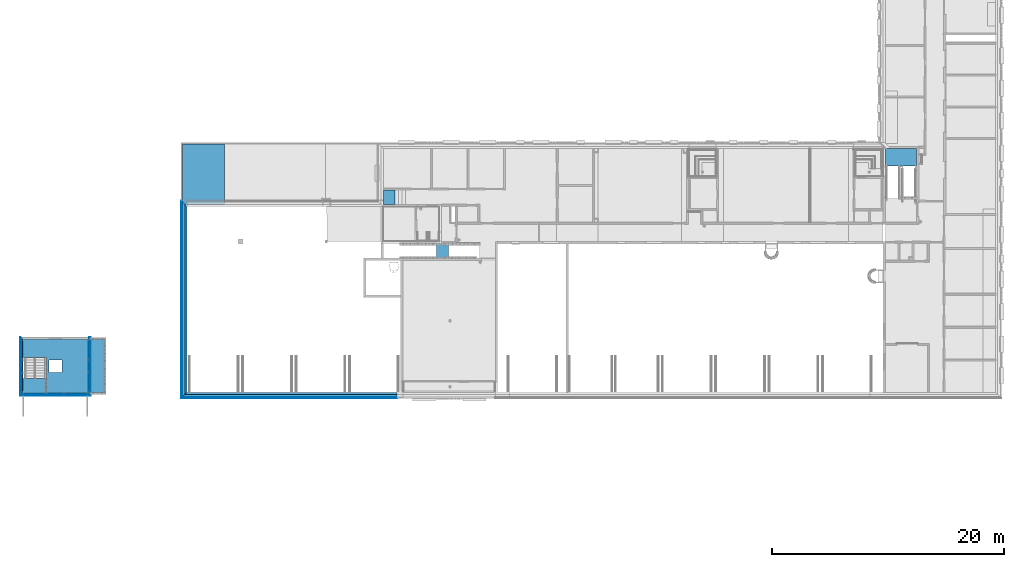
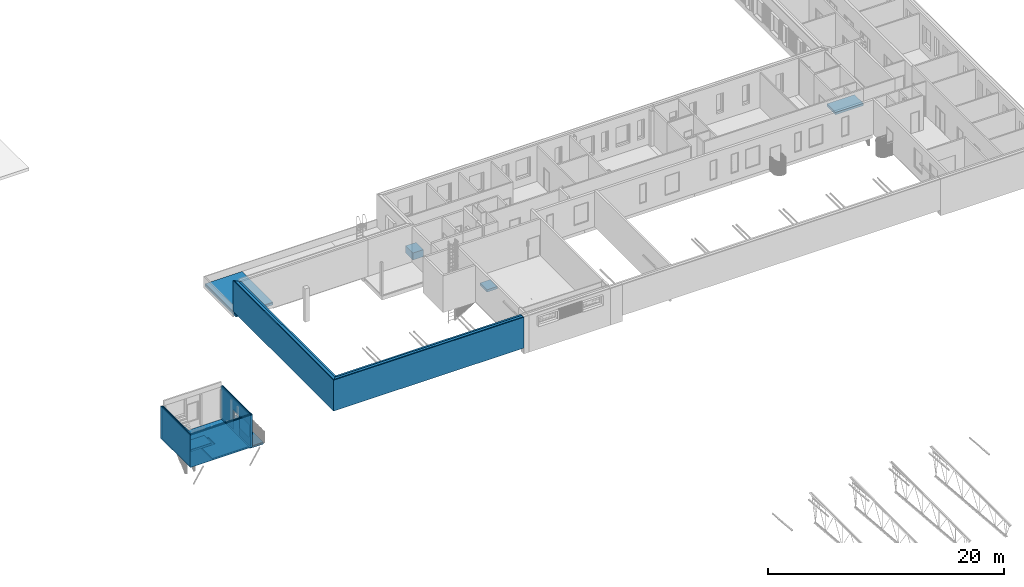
# One storey, part 14 of 100: 30 building element parts, 3 stairs, 3 openings, 9 elements without a shape of their own.
"""IFC2X3 building model written with IfcOpenShell, lengths in millimetres."""

import ifcopenshell
import ifcopenshell.guid

model = None  # the IFC model being written
_history = None  # IfcOwnerHistory: only IFC2X3 demands one
_inside = {}  # id of a spatial element -> (the spatial element, [elements in it])
_under = {}  # id of a project, library or spatial element -> (it, [spatial elements below it])
_declared = {}  # id of a project -> (the project, [libraries it declares])
_typed = {}  # id of a type object -> (the type object, [elements of that type])
_made_of = {}  # id of a material, layer set ... -> (it, [elements and type objects made of it])


def new_model(schema):
    """Start an empty IFC model of exactly this schema.

    Asked for "IFC4X3", IfcOpenShell would pick the latest addendum, in which some entities
    have other attributes; the version numbers below select the first issue.
    IFC2X3 requires an IfcOwnerHistory on every rooted entity: one is made here for all.
    """
    global model, _history
    if schema == "IFC4X3":
        model = ifcopenshell.file(schema_version=(4, 3, 0, 0))
    else:
        model = ifcopenshell.file(schema=schema)
    _inside.clear()
    _under.clear()
    _declared.clear()
    _typed.clear()
    _made_of.clear()
    _history = None
    if model.schema == "IFC2X3":
        org = make("IfcOrganization", Name="unknown")
        user = make(
            "IfcPersonAndOrganization",
            ThePerson=make("IfcPerson", FamilyName="unknown"),
            TheOrganization=org,
        )
        app = make(
            "IfcApplication",
            ApplicationDeveloper=org,
            Version="unknown",
            ApplicationFullName="unknown",
            ApplicationIdentifier="unknown",
        )
        _history = make(
            "IfcOwnerHistory",
            OwningUser=user,
            OwningApplication=app,
            ChangeAction="ADDED",
            CreationDate=0,
        )
    return model


def make(cls, **values):
    """One entity of the class cls with the attributes given. An attribute that is None is left unset."""
    return model.create_entity(
        cls, **{name: value for name, value in values.items() if value is not None}
    )


def entity(cls, *values):
    """Any entity or typed value of the class cls, its attributes in the order of the schema. None: left unset."""
    e = model.create_entity(cls)
    for i, value in enumerate(values):
        if value is not None:
            e[i] = value
    return e


def rooted(cls, **values):
    """An entity with a GlobalId (a new one), such as an element, a storey or a relation."""
    return make(cls, GlobalId=ifcopenshell.guid.new(), OwnerHistory=_history, **values)


def si_unit(unit_type, name, prefix=None):
    """IfcSIUnit, for example si_unit("LENGTHUNIT", "METRE", prefix="MILLI")."""
    return make("IfcSIUnit", UnitType=unit_type, Prefix=prefix, Name=name)


def converted_unit(unit_type, name, factor, base, dimensions=None, offset=None):
    """IfcConversionBasedUnit, such as the inch: factor (a typed value) times the base unit."""
    return make(
        "IfcConversionBasedUnit"
        if offset is None
        else "IfcConversionBasedUnitWithOffset",
        ConversionOffset=offset,
        Dimensions=None
        if dimensions is None
        else entity("IfcDimensionalExponents", *dimensions),
        UnitType=unit_type,
        Name=name,
        ConversionFactor=make(
            "IfcMeasureWithUnit", ValueComponent=factor, UnitComponent=base
        ),
    )


def derived_unit(unit_type, elements):
    """IfcDerivedUnit: a product of units, each with its exponent."""
    return make(
        "IfcDerivedUnit",
        Elements=[
            make("IfcDerivedUnitElement", Unit=unit, Exponent=power)
            for unit, power in elements
        ],
        UnitType=unit_type,
    )


def money_unit(currency):
    """IfcMonetaryUnit."""
    return make("IfcMonetaryUnit", Currency=currency)


def assignment(units):
    """IfcUnitAssignment: the units of a project."""
    return None if units is None else make("IfcUnitAssignment", Units=units)


def point(xyz):
    """IfcCartesianPoint."""
    return None if xyz is None else make("IfcCartesianPoint", Coordinates=xyz)


def direction(xyz):
    """IfcDirection."""
    return None if xyz is None else make("IfcDirection", DirectionRatios=xyz)


def frame(location, z_axis=None, x_axis=None):
    """IfcAxis2Placement3D, a coordinate frame: its origin and axes. An axis left out is left unset."""
    return make(
        "IfcAxis2Placement3D",
        Location=point(location),
        Axis=direction(z_axis),
        RefDirection=direction(x_axis),
    )


def frame_2d(location, x_axis=None):
    """IfcAxis2Placement2D, a coordinate frame in the plane: its origin and x axis."""
    return make(
        "IfcAxis2Placement2D", Location=point(location), RefDirection=direction(x_axis)
    )


def origin_with_axes():
    """The frame at (0, 0, 0) with the z axis (0, 0, 1) and the x axis (1, 0, 0) written out."""
    return frame((0.0, 0.0, 0.0), z_axis=(0.0, 0.0, 1.0), x_axis=(1.0, 0.0, 0.0))


def origin_2d_with_axis():
    """The frame at (0, 0) in the plane with the x axis (1, 0) written out."""
    return frame_2d((0.0, 0.0), x_axis=(1.0, 0.0))


def place(relative_to, where):
    """IfcLocalPlacement: puts the frame where relative to a parent placement (None: the world)."""
    return make(
        "IfcLocalPlacement", PlacementRelTo=relative_to, RelativePlacement=where
    )


def context(
    kind, dimensions, precision=None, world=None, true_north=None, identifier=None
):
    """IfcGeometricRepresentationContext, for example the 3D "Model" context."""
    return make(
        "IfcGeometricRepresentationContext",
        ContextIdentifier=identifier,
        ContextType=kind,
        CoordinateSpaceDimension=dimensions,
        Precision=precision,
        WorldCoordinateSystem=world,
        TrueNorth=true_north,
    )


def subcontext(parent, identifier, kind, view, scale=None):
    """IfcGeometricRepresentationSubContext, for example "Body" below "Model"."""
    return make(
        "IfcGeometricRepresentationSubContext",
        ContextIdentifier=identifier,
        ContextType=kind,
        ParentContext=parent,
        TargetScale=scale,
        TargetView=view,
    )


def project(units=None, contexts=None):
    """IfcProject with its units and contexts."""
    return rooted(
        "IfcProject",
        Name="project",
        RepresentationContexts=contexts,
        UnitsInContext=assignment(units),
    )


def spatial(cls, under=None, at=None, **own):
    """A site, building, storey or space (cls), placed at a placement, below another one or the project."""
    s = rooted(cls, ObjectPlacement=at, **own)
    if under is not None:
        _under.setdefault(under.id(), (under, []))[1].append(s)
    return s


def polyline(points):
    """IfcPolyline through the points."""
    return make("IfcPolyline", Points=[point(p) for p in points])


def profile(cls, at=None, kind="AREA", **sizes):
    """A parametric profile (cls). Its sizes go by their IFC names, for example OverallWidth=200.0."""
    return make(cls, ProfileType=kind, Position=at, **sizes)


def rectangle(**sizes):
    """IfcRectangleProfileDef."""
    return profile("IfcRectangleProfileDef", **sizes)


def outline(outer, holes=None, kind="AREA"):
    """IfcArbitraryClosedProfileDef: a profile drawn as a closed curve; with holes, ...WithVoids."""
    if holes is None:
        return make("IfcArbitraryClosedProfileDef", ProfileType=kind, OuterCurve=outer)
    return make(
        "IfcArbitraryProfileDefWithVoids",
        ProfileType=kind,
        OuterCurve=outer,
        InnerCurves=holes,
    )


def extrude(swept, where, along, depth):
    """IfcExtrudedAreaSolid: the profile swept, set in the frame where, extruded along a direction by depth."""
    return make(
        "IfcExtrudedAreaSolid",
        SweptArea=swept,
        Position=where,
        ExtrudedDirection=direction(along),
        Depth=depth,
    )


def shape(context_of_items, identifier, shape_type, items):
    """IfcShapeRepresentation: the items that make up one representation, for example the "Body"."""
    return make(
        "IfcShapeRepresentation",
        ContextOfItems=context_of_items,
        RepresentationIdentifier=identifier,
        RepresentationType=shape_type,
        Items=items,
    )


def material(Name=None, Category=None):
    """IfcMaterial."""
    return make("IfcMaterial", Name=Name, Category=Category)


def made_of(thing, what):
    """Note that an element or type object is made of a material, layer set ...; save() writes the relation."""
    if what is not None:
        _made_of.setdefault(what.id(), (what, []))[1].append(thing)
    return thing


def type_object(cls, material=None, **own):
    """A type object (cls), such as IfcWallType, which elements share."""
    return made_of(rooted(cls, **own), material)


def element(
    cls,
    number,
    at=None,
    inside=None,
    cuts=None,
    type_object=None,
    material=None,
    context=None,
    identifier="Body",
    shape_type=None,
    held_by="IfcProductDefinitionShape",
    body=None,
    shapes=None,
    **own,
):
    """One element of the class cls, such as IfcWall. Its Tag is "e" and its number.

    at: its placement. inside: the storey or other place that contains it. cuts: it is an
    opening in that element (IfcRelVoidsElement). A single representation is given by context,
    identifier, shape_type and body (its items); several are given by shapes. held_by: the class
    of the entity that holds the representations. save() writes the other relations.
    """
    e = rooted(cls, Tag="e%d" % number, ObjectPlacement=at, **own)
    if body is not None:
        shapes = [shape(context, identifier, shape_type, body)]
    if shapes is not None:
        e.Representation = make(held_by, Representations=shapes)
    if inside is not None:
        _inside.setdefault(inside.id(), (inside, []))[1].append(e)
    if cuts is not None:
        rooted(
            "IfcRelVoidsElement", RelatingBuildingElement=cuts, RelatedOpeningElement=e
        )
    if type_object is not None:
        _typed.setdefault(type_object.id(), (type_object, []))[1].append(e)
    return made_of(e, material)


def aggregate(whole, parts):
    """IfcRelAggregates: a whole, such as a stair, and the parts it consists of."""
    return rooted("IfcRelAggregates", RelatingObject=whole, RelatedObjects=parts)


def save(model, path):
    """Write the relations noted so far, then the file.

    IfcRelAggregates (storeys below a building ...), IfcRelContainedInSpatialStructure (elements
    in a storey), IfcRelDefinesByType, IfcRelAssociatesMaterial and IfcRelDeclares: one each for
    every whole, place, type object, material and project.
    """
    for whole, parts in _under.values():
        aggregate(whole, parts)
    for where, things in _inside.values():
        rooted(
            "IfcRelContainedInSpatialStructure",
            RelatedElements=things,
            RelatingStructure=where,
        )
    for kind, things in _typed.values():
        rooted("IfcRelDefinesByType", RelatedObjects=things, RelatingType=kind)
    for what, things in _made_of.values():
        rooted("IfcRelAssociatesMaterial", RelatedObjects=things, RelatingMaterial=what)
    for by, libraries in _declared.values():
        rooted("IfcRelDeclares", RelatingContext=by, RelatedDefinitions=libraries)
    model.write(path)


model = new_model("IFC2X3")

# Units and contexts
model_context = context("Model", 3, precision=0.01, world=origin_with_axes(), true_north=direction((0.0, 1.0)))
body_context = subcontext(model_context, "Body", "Model", "MODEL_VIEW")
ifc_project = project(units=[si_unit("LENGTHUNIT", "METRE", prefix="MILLI"), si_unit("AREAUNIT", "SQUARE_METRE"), si_unit("VOLUMEUNIT", "CUBIC_METRE"), converted_unit("PLANEANGLEUNIT", "DEGREE", entity("IfcPlaneAngleMeasure", 0.0174532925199), si_unit("PLANEANGLEUNIT", "RADIAN"), dimensions=[0, 0, 0, 0, 0, 0, 0]), si_unit("SOLIDANGLEUNIT", "STERADIAN"), money_unit("EUR"), converted_unit("TIMEUNIT", "Year", entity("IfcTimeMeasure", 31556926.0), si_unit("TIMEUNIT", "SECOND"), dimensions=[0, 0, 1, 0, 0, 0, 0]), si_unit("MASSUNIT", "GRAM", prefix="KILO"), si_unit("THERMODYNAMICTEMPERATUREUNIT", "DEGREE_CELSIUS"), si_unit("LUMINOUSINTENSITYUNIT", "LUMEN"), si_unit("ENERGYUNIT", "JOULE", prefix="MEGA"), derived_unit("THERMALCONDUCTANCEUNIT", [(si_unit("POWERUNIT", "WATT"), 1), (si_unit("LENGTHUNIT", "METRE"), -1), (si_unit("THERMODYNAMICTEMPERATUREUNIT", "KELVIN"), -1)]), derived_unit("SPECIFICHEATCAPACITYUNIT", [(si_unit("ENERGYUNIT", "JOULE"), 1), (si_unit("MASSUNIT", "GRAM", prefix="KILO"), -1), (si_unit("THERMODYNAMICTEMPERATUREUNIT", "KELVIN"), -1)]), derived_unit("MASSDENSITYUNIT", [(si_unit("MASSUNIT", "GRAM", prefix="KILO"), 1), (si_unit("VOLUMEUNIT", "CUBIC_METRE"), -1)])], contexts=[model_context])

# Site, building, storey
site_placement = place(None, origin_with_axes())
site = spatial("IfcSite", under=ifc_project, at=site_placement, Name="Politse- ja Piirivalveameti ning Päästeameti ühishoone", CompositionType="ELEMENT")
building_placement = place(site_placement, origin_with_axes())
building = spatial("IfcBuilding", under=site, at=building_placement, Name="Politse- ja Piirivalveameti ning Päästeameti ühishoone", CompositionType="ELEMENT")
storey_placement = place(building_placement, frame((0.0, 0.0, 3800.0), z_axis=(0.0, 0.0, 1.0), x_axis=(1.0, 0.0, 0.0)))
storey = spatial("IfcBuildingStorey", under=building, at=storey_placement, Name="Teine korrus", CompositionType="ELEMENT", Elevation=3800.0)

# Stairs
ifc_material_1 = material(Name="ET-02_Raudbetoon - Toode")
stair_1_placement = place(storey_placement, frame((60160.5519118, 19499.9520832, -1900.0), z_axis=(0.0, 0.0, 1.0), x_axis=(1.0, 0.0, 0.0)))
element("IfcStair", 1, at=stair_1_placement, inside=storey, material=ifc_material_1, Name="VL-14", ShapeType="NOTDEFINED", context=body_context, shape_type="SweptSolid", body=[
    extrude(outline(polyline([(0.0, 0.0), (2700.00534722, 0.0), (2700.00534722, 1500.0), (0.0, 1500.0), (0.0, 0.0)])), frame((0.0, 0.0, -235.393767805), z_axis=(0.0, 0.0, 1.0), x_axis=(1.0, 0.0, 0.0)), (0.0, 0.0, 1.0), 235.393767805),
])
stair_2_placement = place(storey_placement, frame((21480.0260184, 11585.0198611, -1900.0), z_axis=(0.0, 0.0, 1.0), x_axis=(1.0, 0.0, 0.0)))
element("IfcStair", 2, at=stair_2_placement, inside=storey, material=ifc_material_1, Name="VL-14", ShapeType="NOTDEFINED", context=body_context, shape_type="SweptSolid", body=[
    extrude(outline(polyline([(0.0, 0.0), (1020.93630094, 0.0), (1020.93630094, 1200.0), (0.0, 1200.0), (0.0, 0.0)])), frame((0.0, 0.0, -235.393767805), z_axis=(0.0, 0.0, 1.0), x_axis=(1.0, 0.0, 0.0)), (0.0, 0.0, 1.0), 235.393767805),
])
ifc_material_2 = material(Name="KON-04_Betoon - Konstuktsioon")
stair_3_placement = place(storey_placement, frame((16900.2058065, 16189.8176113, 720.0), z_axis=(0.0, 0.0, 1.0), x_axis=(1.0, 0.0, 0.0)))
element("IfcStair", 3, at=stair_3_placement, inside=storey, material=ifc_material_2, Name="VL-07", ShapeType="NOTDEFINED", context=body_context, shape_type="SweptSolid", body=[
    extrude(outline(polyline([(0.0, 0.0), (1009.28273407, 0.0), (1009.28273407, 1250.2068331), (-2.49137698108, 1250.08289939), (0.0, 0.0)])), frame((0.0, 0.0, -720.0), z_axis=(0.0, 0.0, 1.0), x_axis=(1.0, 0.0, 0.0)), (0.0, 0.0, 1.0), 720.0),
])

# Wall, building element parts
wall_type_1 = type_object("IfcWallType", Name="VS-01_välissein 510", PredefinedType="NOTDEFINED")
wall_1_placement = place(storey_placement, frame((0.0, 0.0, 600.0), z_axis=(0.0, 0.0, 1.0), x_axis=(1.0, 0.0, 0.0)))
wall_1 = element("IfcWall", 4, at=wall_1_placement, inside=storey, type_object=wall_type_1, Name="VS-01")
building_element_part_1_placement = place(wall_1_placement, origin_with_axes())
building_element_part_1 = element("IfcBuildingElementPart", 5, at=building_element_part_1_placement, material=ifc_material_2, Name="KON-04_Betoon - Konstuktsioon", context=body_context, shape_type="SweptSolid", body=[
    extrude(outline(polyline([(-180.0, -180.0), (18099.6782559, -180.0), (18099.6782559, 0.0), (0.0, 0.0), (-180.0, -180.0)])), origin_with_axes(), (0.0, 0.0, 1.0), 3200.0),
])
ifc_material_3 = material(Name="SOJ-06_Soojustus - Plastik Kõva")
building_element_part_2_placement = place(wall_1_placement, origin_with_axes())
building_element_part_2 = element("IfcBuildingElementPart", 6, at=building_element_part_2_placement, material=ifc_material_3, Name="SOJ-06_Soojustus - Plastik Kõva", context=body_context, shape_type="SweptSolid", body=[
    extrude(outline(polyline([(-430.0, -430.0), (18099.6782559, -430.0), (18099.6782559, -180.0), (-180.0, -180.0), (-430.0, -430.0)])), origin_with_axes(), (0.0, 0.0, 1.0), 3200.0),
])
building_element_part_3_placement = place(wall_1_placement, origin_with_axes())
building_element_part_3 = element("IfcBuildingElementPart", 7, at=building_element_part_3_placement, material=ifc_material_2, Name="KON-04_Betoon - Konstuktsioon", context=body_context, shape_type="SweptSolid", body=[
    extrude(outline(polyline([(-510.0, -510.0), (18099.6782559, -510.0), (18099.6782559, -430.0), (-430.0, -430.0), (-510.0, -510.0)])), origin_with_axes(), (0.0, 0.0, 1.0), 3200.0),
])
aggregate(wall_1, [building_element_part_1, building_element_part_2, building_element_part_3])

wall_2_placement = place(storey_placement, frame((0.0, 0.0, 600.0), z_axis=(0.0, 0.0, 1.0), x_axis=(0.0, 1.0, 0.0)))
wall_2 = element("IfcWall", 8, at=wall_2_placement, inside=storey, type_object=wall_type_1, Name="VS-01")
building_element_part_4_placement = place(wall_2_placement, origin_with_axes())
building_element_part_4 = element("IfcBuildingElementPart", 9, at=building_element_part_4_placement, material=ifc_material_2, Name="KON-04_Betoon - Konstuktsioon", context=body_context, shape_type="SweptSolid", body=[
    extrude(outline(polyline([(0.0, 0.0), (16000.0244444, 0.0), (16180.0244444, 180.0), (-180.0, 180.0), (0.0, 0.0)])), origin_with_axes(), (0.0, 0.0, 1.0), 3200.0),
])
building_element_part_5_placement = place(wall_2_placement, origin_with_axes())
building_element_part_5 = element("IfcBuildingElementPart", 10, at=building_element_part_5_placement, material=ifc_material_3, Name="SOJ-06_Soojustus - Plastik Kõva", context=body_context, shape_type="SweptSolid", body=[
    extrude(outline(polyline([(-180.0, 180.0), (16180.0244444, 180.0), (16430.0244444, 430.0), (-430.0, 430.0), (-180.0, 180.0)])), origin_with_axes(), (0.0, 0.0, 1.0), 3200.0),
])
building_element_part_6_placement = place(wall_2_placement, origin_with_axes())
building_element_part_6 = element("IfcBuildingElementPart", 11, at=building_element_part_6_placement, material=ifc_material_2, Name="KON-04_Betoon - Konstuktsioon", context=body_context, shape_type="SweptSolid", body=[
    extrude(outline(polyline([(-430.0, 430.0), (16430.0244444, 430.0), (16510.0244444, 510.0), (-510.0, 510.0), (-430.0, 430.0)])), origin_with_axes(), (0.0, 0.0, 1.0), 3200.0),
])
aggregate(wall_2, [building_element_part_4, building_element_part_5, building_element_part_6])

# Slab, opening, building element parts
slab_type_1 = type_object("IfcSlabType", Name="VL-20_Vahelagi harjutustorn 180", PredefinedType="NOTDEFINED")
slab_1_placement = place(storey_placement, frame((-8531.69877185, -75.0, -500.0), z_axis=(0.0, 0.0, 1.0), x_axis=(1.0, 0.0, 0.0)))
slab_1 = element("IfcSlab", 12, at=slab_1_placement, inside=storey, type_object=slab_type_1, Name="VAHELAGI", PredefinedType="NOTDEFINED")
opening_1_placement = place(slab_1_placement, frame((-3375.15060662, 1775.11496163, 0.0), z_axis=(0.0, 0.0, 1.0), x_axis=(1.0, 0.0, 0.0)))
element("IfcOpeningElement", 13, at=opening_1_placement, cuts=slab_1, Name="Slab Opening", context=body_context, shape_type="SweptSolid", body=[
    extrude(outline(polyline([(0.0, 0.0), (1099.99999255, 0.0), (1099.99999255, 1099.99999255), (0.0, 1099.99999255), (0.0, 0.0)])), frame((0.0, 0.0, -180.0), z_axis=(0.0, 0.0, 1.0), x_axis=(1.0, 0.0, 0.0)), (0.0, 0.0, 1.0), 180.0),
])
ifc_material_4 = material(Name="SKR-01_Õhkvahe - Raam")
building_element_part_7_placement = place(slab_1_placement, origin_with_axes())
building_element_part_7 = element("IfcBuildingElementPart", 14, at=building_element_part_7_placement, material=ifc_material_4, Name="SKR-01_Õhkvahe - Raam", context=body_context, shape_type="SweptSolid", body=[
    extrude(outline(polyline([(0.0, 0.0), (0.0, 4650.46168312), (-5650.0, 4650.46168312), (-5650.0, 3079.92718396), (-3574.96731026, 3079.92718396), (-3574.96731026, 0.0), (0.0, 0.0)])), frame((0.0, 0.0, -180.0), z_axis=(0.0, 0.0, 1.0), x_axis=(1.0, 0.0, 0.0)), (0.0, 0.0, 1.0), 150.0),
])
ifc_material_5 = material(Name="SKR-05_Vineer")
building_element_part_8_placement = place(slab_1_placement, origin_with_axes())
building_element_part_8 = element("IfcBuildingElementPart", 15, at=building_element_part_8_placement, material=ifc_material_5, Name="SKR-05_Vineer", context=body_context, shape_type="SweptSolid", body=[
    extrude(outline(polyline([(0.0, 0.0), (0.0, 4650.46168312), (-5650.0, 4650.46168312), (-5650.0, 3079.92718396), (-3574.96731026, 3079.92718396), (-3574.96731026, 0.0), (0.0, 0.0)])), frame((0.0, 0.0, -30.0), z_axis=(0.0, 0.0, 1.0), x_axis=(1.0, 0.0, 0.0)), (0.0, 0.0, 1.0), 20.0),
])
ifc_material_6 = material(Name="SV-03_Plaat - Põrand")
building_element_part_9_placement = place(slab_1_placement, origin_with_axes())
building_element_part_9 = element("IfcBuildingElementPart", 16, at=building_element_part_9_placement, material=ifc_material_6, Name="SV-03_Plaat - Põrand", context=body_context, shape_type="SweptSolid", body=[
    extrude(outline(polyline([(0.0, 0.0), (0.0, 4650.46168312), (-5650.0, 4650.46168312), (-5650.0, 3079.92718396), (-3574.96731026, 3079.92718396), (-3574.96731026, 0.0), (0.0, 0.0)])), frame((0.0, 0.0, -10.0), z_axis=(0.0, 0.0, 1.0), x_axis=(1.0, 0.0, 0.0)), (0.0, 0.0, 1.0), 10.0),
])
aggregate(slab_1, [building_element_part_7, building_element_part_8, building_element_part_9])

# Wall, building element parts
wall_type_2 = type_object("IfcWallType", Name="VS-20_Välissein jarjutustorn 225", PredefinedType="NOTDEFINED")
wall_3_placement = place(storey_placement, frame((-14182.0, 4575.4616888, -499.999980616), z_axis=(0.0, 0.0, 1.0), x_axis=(0.0, -1.0, 0.0)))
wall_3 = element("IfcWall", 17, at=wall_3_placement, inside=storey, type_object=wall_type_2, Name="VS-20")
ifc_material_7 = material(Name="Õhkvahe - Raam")
building_element_part_10_placement = place(wall_3_placement, origin_with_axes())
building_element_part_10 = element("IfcBuildingElementPart", 18, at=building_element_part_10_placement, material=ifc_material_7, Name="Õhkvahe - Raam", context=body_context, shape_type="SweptSolid", body=[
    extrude(outline(polyline([(-66.6666666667, -100.0), (4750.4616888, -100.0), (4650.4616888, 0.0), (0.0, 0.0), (-66.6666666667, -100.0)])), origin_with_axes(), (0.0, 0.0, 1.0), 3346.99998062),
])
building_element_part_11_placement = place(wall_3_placement, origin_with_axes())
building_element_part_11 = element("IfcBuildingElementPart", 19, at=building_element_part_11_placement, material=ifc_material_5, Name="SKR-05_Vineer", context=body_context, shape_type="SweptSolid", body=[
    extrude(outline(polyline([(-76.6666666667, -115.0), (4765.4616888, -115.0), (4750.4616888, -100.0), (-66.6666666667, -100.0), (-76.6666666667, -115.0)])), origin_with_axes(), (0.0, 0.0, 1.0), 3346.99998062),
])
building_element_part_12_placement = place(wall_3_placement, origin_with_axes())
building_element_part_12 = element("IfcBuildingElementPart", 20, at=building_element_part_12_placement, material=ifc_material_4, Name="SKR-01_Õhkvahe - Raam", context=body_context, shape_type="SweptSolid", body=[
    extrude(outline(polyline([(-86.6666666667, -130.0), (4780.4616888, -130.0), (4765.4616888, -115.0), (-76.6666666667, -115.0), (-86.6666666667, -130.0)])), origin_with_axes(), (0.0, 0.0, 1.0), 3346.99998062),
])
building_element_part_13_placement = place(wall_3_placement, origin_with_axes())
building_element_part_13 = element("IfcBuildingElementPart", 21, at=building_element_part_13_placement, material=ifc_material_4, Name="SKR-01_Õhkvahe - Raam", context=body_context, shape_type="SweptSolid", body=[
    extrude(outline(polyline([(-120.0, -180.0), (4830.4616888, -180.0), (4780.4616888, -130.0), (-86.6666666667, -130.0), (-120.0, -180.0)])), origin_with_axes(), (0.0, 0.0, 1.0), 3346.99998062),
])
ifc_material_8 = material(Name="SKR-04_Puitplaat")
building_element_part_14_placement = place(wall_3_placement, origin_with_axes())
building_element_part_14 = element("IfcBuildingElementPart", 22, at=building_element_part_14_placement, material=ifc_material_8, Name="SKR-04_Puitplaat", context=body_context, shape_type="SweptSolid", body=[
    extrude(outline(polyline([(-150.0, -225.0), (4875.4616888, -225.0), (4830.4616888, -180.0), (-120.0, -180.0), (-150.0, -225.0)])), origin_with_axes(), (0.0, 0.0, 1.0), 3346.99998062),
])
aggregate(wall_3, [building_element_part_10, building_element_part_11, building_element_part_12, building_element_part_13, building_element_part_14])

wall_4_placement = place(storey_placement, frame((-14182.0, -75.0, -499.999980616), z_axis=(0.0, 0.0, 1.0), x_axis=(1.0, 0.0, 0.0)))
wall_4 = element("IfcWall", 23, at=wall_4_placement, inside=storey, type_object=wall_type_2, Name="VS-20")
building_element_part_15_placement = place(wall_4_placement, origin_with_axes())
building_element_part_15 = element("IfcBuildingElementPart", 24, at=building_element_part_15_placement, material=ifc_material_7, Name="Õhkvahe - Raam", context=body_context, shape_type="SweptSolid", body=[
    extrude(outline(polyline([(-100.0, -100.0), (5750.0, -100.0), (5650.0, 0.0), (0.0, 0.0), (-100.0, -100.0)])), origin_with_axes(), (0.0, 0.0, 1.0), 3346.99998062),
])
building_element_part_16_placement = place(wall_4_placement, origin_with_axes())
building_element_part_16 = element("IfcBuildingElementPart", 25, at=building_element_part_16_placement, material=ifc_material_5, Name="SKR-05_Vineer", context=body_context, shape_type="SweptSolid", body=[
    extrude(outline(polyline([(-115.0, -115.0), (5765.0, -115.0), (5750.0, -100.0), (-100.0, -100.0), (-115.0, -115.0)])), origin_with_axes(), (0.0, 0.0, 1.0), 3346.99998062),
])
building_element_part_17_placement = place(wall_4_placement, origin_with_axes())
building_element_part_17 = element("IfcBuildingElementPart", 26, at=building_element_part_17_placement, material=ifc_material_4, Name="SKR-01_Õhkvahe - Raam", context=body_context, shape_type="SweptSolid", body=[
    extrude(outline(polyline([(-130.0, -130.0), (5780.0, -130.0), (5765.0, -115.0), (-115.0, -115.0), (-130.0, -130.0)])), origin_with_axes(), (0.0, 0.0, 1.0), 3346.99998062),
])
building_element_part_18_placement = place(wall_4_placement, origin_with_axes())
building_element_part_18 = element("IfcBuildingElementPart", 27, at=building_element_part_18_placement, material=ifc_material_4, Name="SKR-01_Õhkvahe - Raam", context=body_context, shape_type="SweptSolid", body=[
    extrude(outline(polyline([(-180.0, -180.0), (5830.0, -180.0), (5780.0, -130.0), (-130.0, -130.0), (-180.0, -180.0)])), origin_with_axes(), (0.0, 0.0, 1.0), 3346.99998062),
])
building_element_part_19_placement = place(wall_4_placement, origin_with_axes())
building_element_part_19 = element("IfcBuildingElementPart", 28, at=building_element_part_19_placement, material=ifc_material_8, Name="SKR-04_Puitplaat", context=body_context, shape_type="SweptSolid", body=[
    extrude(outline(polyline([(-225.0, -225.0), (5875.0, -225.0), (5830.0, -180.0), (-180.0, -180.0), (-225.0, -225.0)])), origin_with_axes(), (0.0, 0.0, 1.0), 3346.99998062),
])
aggregate(wall_4, [building_element_part_15, building_element_part_16, building_element_part_17, building_element_part_18, building_element_part_19])

# Wall, openings, building element parts
wall_5_placement = place(storey_placement, frame((-8532.0, -75.0, -500.0), z_axis=(0.0, 0.0, 1.0), x_axis=(0.0, 1.0, 0.0)))
wall_5 = element("IfcWall", 29, at=wall_5_placement, inside=storey, type_object=wall_type_2, Name="VS-20")
opening_2_placement = place(wall_5_placement, frame((925.0, 0.0, 799.999993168), z_axis=(0.0, 0.0, 1.0), x_axis=(1.0, 0.0, 0.0)))
element("IfcOpeningElement", 30, at=opening_2_placement, cuts=wall_5, Name="A-21", context=body_context, shape_type="SweptSolid", body=[
    extrude(rectangle(XDim=1550.0, YDim=1300.0, at=origin_2d_with_axis()), frame((0.0, -202.0, 650.0), z_axis=(0.0, -1.0, 0.0), x_axis=(-1.0, 0.0, 0.0)), (0.0, 0.0, -1.0), 427.0),
    extrude(rectangle(XDim=1550.0, YDim=1300.0, at=origin_2d_with_axis()), frame((0.0, -202.0, 650.0), z_axis=(0.0, 1.0, 0.0), x_axis=(-1.0, 0.0, 0.0)), (0.0, 0.0, -1.0), 248.0),
])
opening_3_placement = place(wall_5_placement, frame((2325.11493577, 0.0, 0.0), z_axis=(0.0, 0.0, 1.0), x_axis=(1.0, 0.0, 0.0)))
element("IfcOpeningElement", 31, at=opening_3_placement, cuts=wall_5, Name="VU-22", context=body_context, shape_type="SweptSolid", body=[
    extrude(rectangle(XDim=950.0, YDim=2100.0, at=origin_2d_with_axis()), frame((0.0, 225.0, 1050.0), z_axis=(0.0, 1.0, 0.0), x_axis=(1.0, 0.0, 0.0)), (0.0, 0.0, -1.0), 675.0),
    extrude(rectangle(XDim=1024.0, YDim=2137.0, at=origin_2d_with_axis()), frame((0.0, 0.0, 1068.5), z_axis=(0.0, 1.0, 0.0), x_axis=(1.0, 0.0, 0.0)), (0.0, 0.0, 1.0), 225.0),
    extrude(rectangle(XDim=1024.0, YDim=2137.0, at=origin_2d_with_axis()), frame((0.0, -225.0, 1068.5), z_axis=(0.0, -1.0, 0.0), x_axis=(1.0, 0.0, 0.0)), (0.0, 0.0, 1.0), 225.0),
])
building_element_part_20_placement = place(wall_5_placement, origin_with_axes())
building_element_part_20 = element("IfcBuildingElementPart", 32, at=building_element_part_20_placement, material=ifc_material_7, Name="Õhkvahe - Raam", context=body_context, shape_type="SweptSolid", body=[
    extrude(outline(polyline([(-100.0, -100.0), (4800.4616888, -100.0), (4800.4616888, 0.0), (0.0, 0.0), (-100.0, -100.0)])), origin_with_axes(), (0.0, 0.0, 1.0), 3347.0),
])
building_element_part_21_placement = place(wall_5_placement, origin_with_axes())
building_element_part_21 = element("IfcBuildingElementPart", 33, at=building_element_part_21_placement, material=ifc_material_5, Name="SKR-05_Vineer", context=body_context, shape_type="SweptSolid", body=[
    extrude(outline(polyline([(-115.0, -115.0), (4800.4616888, -115.0), (4800.4616888, -100.0), (-100.0, -100.0), (-115.0, -115.0)])), origin_with_axes(), (0.0, 0.0, 1.0), 3347.0),
])
building_element_part_22_placement = place(wall_5_placement, origin_with_axes())
building_element_part_22 = element("IfcBuildingElementPart", 34, at=building_element_part_22_placement, material=ifc_material_4, Name="SKR-01_Õhkvahe - Raam", context=body_context, shape_type="SweptSolid", body=[
    extrude(outline(polyline([(-130.0, -130.0), (4800.4616888, -130.0), (4800.4616888, -115.0), (-115.0, -115.0), (-130.0, -130.0)])), origin_with_axes(), (0.0, 0.0, 1.0), 3347.0),
])
building_element_part_23_placement = place(wall_5_placement, origin_with_axes())
building_element_part_23 = element("IfcBuildingElementPart", 35, at=building_element_part_23_placement, material=ifc_material_4, Name="SKR-01_Õhkvahe - Raam", context=body_context, shape_type="SweptSolid", body=[
    extrude(outline(polyline([(-180.0, -180.0), (4800.4616888, -180.0), (4800.4616888, -130.0), (-130.0, -130.0), (-180.0, -180.0)])), origin_with_axes(), (0.0, 0.0, 1.0), 3347.0),
])
building_element_part_24_placement = place(wall_5_placement, origin_with_axes())
building_element_part_24 = element("IfcBuildingElementPart", 36, at=building_element_part_24_placement, material=ifc_material_8, Name="SKR-04_Puitplaat", context=body_context, shape_type="SweptSolid", body=[
    extrude(outline(polyline([(-225.0, -225.0), (4800.4616888, -225.0), (4800.4616888, -180.0), (-180.0, -180.0), (-225.0, -225.0)])), origin_with_axes(), (0.0, 0.0, 1.0), 3347.0),
])
aggregate(wall_5, [building_element_part_20, building_element_part_21, building_element_part_22, building_element_part_23, building_element_part_24])

# Slab, building element parts
slab_type_2 = type_object("IfcSlabType", Name="VL-21_Vahelagi 200", PredefinedType="NOTDEFINED")
slab_2_placement = place(storey_placement, frame((-8459.69877185, -75.0, -550.0), z_axis=(0.0, 0.0, 1.0), x_axis=(1.0, 0.0, 0.0)))
slab_2 = element("IfcSlab", 37, at=slab_2_placement, inside=storey, type_object=slab_type_2, Name="VL-20", PredefinedType="NOTDEFINED")
building_element_part_25_placement = place(slab_2_placement, origin_with_axes())
building_element_part_25 = element("IfcBuildingElementPart", 38, at=building_element_part_25_placement, material=ifc_material_4, Name="SKR-01_Õhkvahe - Raam", context=body_context, shape_type="SweptSolid", body=[
    extrude(outline(polyline([(0.0, 0.0), (1353.0, 0.0), (1353.0, 4650.4616888), (0.0, 4650.4616888), (0.0, 0.0)])), frame((0.0, 0.0, -200.0), z_axis=(0.0, 0.0, 1.0), x_axis=(1.0, 0.0, 0.0)), (0.0, 0.0, 1.0), 150.0),
])
ifc_material_9 = material(Name="ET-03_Raud")
building_element_part_26_placement = place(slab_2_placement, origin_with_axes())
building_element_part_26 = element("IfcBuildingElementPart", 39, at=building_element_part_26_placement, material=ifc_material_9, Name="ET-03_Raud", context=body_context, shape_type="SweptSolid", body=[
    extrude(outline(polyline([(0.0, 0.0), (1353.0, 0.0), (1353.0, 4650.4616888), (0.0, 4650.4616888), (0.0, 0.0)])), frame((0.0, 0.0, -50.0), z_axis=(0.0, 0.0, 1.0), x_axis=(1.0, 0.0, 0.0)), (0.0, 0.0, 1.0), 50.0),
])
aggregate(slab_2, [building_element_part_25, building_element_part_26])

slab_type_3 = type_object("IfcSlabType", Name="KL-07_Katuslagi paneel 220 + kalle 300", PredefinedType="ROOF")
slab_3_placement = place(storey_placement, frame((-410.0, 16180.0244444, 459.999998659), z_axis=(0.0, 0.0, 1.0), x_axis=(1.0, 0.0, 0.0)))
slab_3 = element("IfcSlab", 40, at=slab_3_placement, inside=storey, type_object=slab_type_3, Name="KL-07", PredefinedType="ROOF")
building_element_part_27_placement = place(slab_3_placement, origin_with_axes())
building_element_part_27 = element("IfcBuildingElementPart", 41, at=building_element_part_27_placement, material=ifc_material_2, Name="KON-04_Betoon - Konstuktsioon", context=body_context, shape_type="SweptSolid", body=[
    extrude(outline(polyline([(0.0, 0.0), (3612.00534722, 0.0), (3612.00534722, 5229.92763877), (0.0, 5229.92763877), (0.0, 0.0)])), frame((0.0, 0.0, -300.0), z_axis=(0.0, 0.0, 1.0), x_axis=(1.0, 0.0, 0.0)), (0.0, 0.0, 1.0), 220.0),
])
ifc_material_10 = material(Name="Betoon")
building_element_part_28_placement = place(slab_3_placement, origin_with_axes())
building_element_part_28 = element("IfcBuildingElementPart", 42, at=building_element_part_28_placement, material=ifc_material_10, Name="Betoon", context=body_context, shape_type="SweptSolid", body=[
    extrude(outline(polyline([(0.0, 0.0), (3612.00534722, 0.0), (3612.00534722, 5229.92763877), (0.0, 5229.92763877), (0.0, 0.0)])), frame((0.0, 0.0, -80.0), z_axis=(0.0, 0.0, 1.0), x_axis=(1.0, 0.0, 0.0)), (0.0, 0.0, 1.0), 80.0),
])
aggregate(slab_3, [building_element_part_27, building_element_part_28])

slab_type_4 = type_object("IfcSlabType", Name="VL-22_Vahelagi harjutustorn trepimade 230", PredefinedType="NOTDEFINED")
slab_4_placement = place(storey_placement, frame((-14181.6987719, -75.0, 1150.0), z_axis=(0.0, 0.0, 1.0), x_axis=(1.0, 0.0, 0.0)))
slab_4 = element("IfcSlab", 43, at=slab_4_placement, inside=storey, type_object=slab_type_4, Name="VAHELAGI", PredefinedType="NOTDEFINED")
building_element_part_29_placement = place(slab_4_placement, origin_with_axes())
building_element_part_29 = element("IfcBuildingElementPart", 44, at=building_element_part_29_placement, material=ifc_material_4, Name="SKR-01_Õhkvahe - Raam", context=body_context, shape_type="SweptSolid", body=[
    extrude(outline(polyline([(0.0, 0.0), (2000.03268974, 0.0), (1999.73714907, 1269.99609654), (0.0, 1269.99609654), (0.0, 0.0)])), frame((0.0, 0.0, -230.0), z_axis=(0.0, 0.0, 1.0), x_axis=(1.0, 0.0, 0.0)), (0.0, 0.0, 1.0), 200.0),
])
ifc_material_11 = material(Name="ET-05_Teras")
building_element_part_30_placement = place(slab_4_placement, origin_with_axes())
building_element_part_30 = element("IfcBuildingElementPart", 45, at=building_element_part_30_placement, material=ifc_material_11, Name="ET-05_Teras", context=body_context, shape_type="SweptSolid", body=[
    extrude(outline(polyline([(0.0, 0.0), (2000.03268974, 0.0), (1999.73714907, 1269.99609654), (0.0, 1269.99609654), (0.0, 0.0)])), frame((0.0, 0.0, -30.0), z_axis=(0.0, 0.0, 1.0), x_axis=(1.0, 0.0, 0.0)), (0.0, 0.0, 1.0), 30.0),
])
aggregate(slab_4, [building_element_part_29, building_element_part_30])

save(model, "model.ifc")
